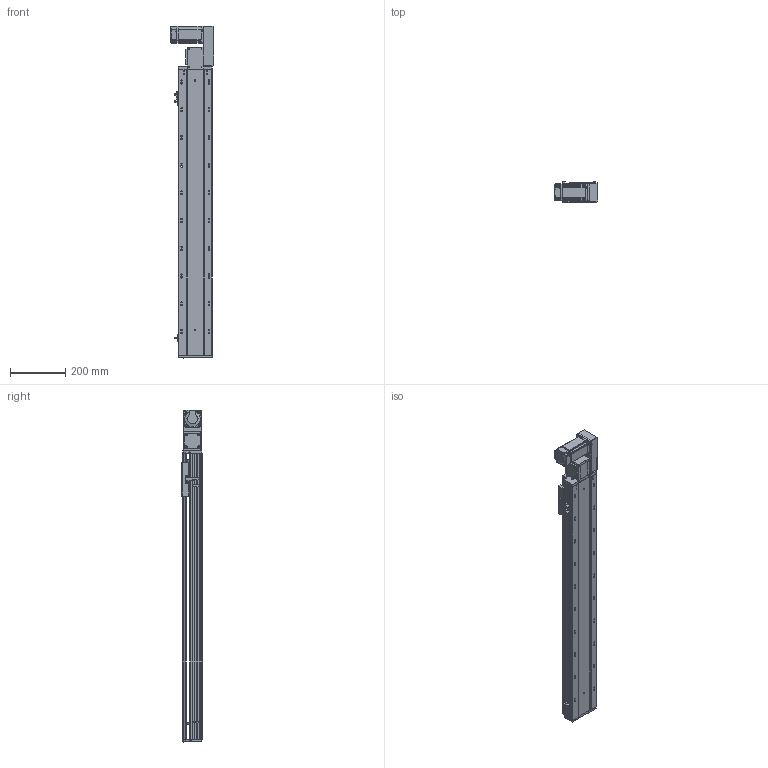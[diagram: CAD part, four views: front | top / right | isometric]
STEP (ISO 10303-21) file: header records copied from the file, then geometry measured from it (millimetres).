
FILE_DESCRIPTION (( 'STEP AP203' ), '1' );
FILE_NAME ('RY120-T-300-RK.SLDASM_800.step', '2021-03-01T03:53:16', ( '盈信电脑' ), ( '东莞市道滘镇水果街19号' ), 'SwSTEP 2.0', 'SolidWorks 2012', '' );
FILE_SCHEMA (( 'CONFIG_CONTROL_DESIGN' ));
Length unit declared in the file: millimetre
Products named in the file (17): RY120-T萇儂假蚾啣; 15; RY120-T翋肮祭謫裔啣; 滅袉蝶18-10; RY120-T翋肮祭盓傅釱; RY120外置感应片(140共用）; RY120-T肮祭湍揤踡輸1; RY120-T肮祭湍揤踡輸2; RY120-T-300-RK倰第奻裔啣_800; RY120肮祭湍臏賑輸; 覜茼ん672; RY120綴裔啣; RY120-T-300-RK倰第菁釱_800; RY120-T-300-RK.SLDASM_800; RY120-T萇儂欶; RY120-T主同步轮轴承压盖; RY120-T蹟翐M4
Assembly tree (22 placements, depth 2):
  RY120-T-300-RK.SLDASM_800
    RY120-T-300-RK倰第菁釱_800
    RY120-T-300-RK倰第奻裔啣_800
    RY120肮祭湍臏賑輸
    RY120綴裔啣
    覜茼ん672  x3
    RY120外置感应片(140共用）
    RY120-T肮祭湍揤踡輸1
    RY120-T肮祭湍揤踡輸2
    RY120-T翋肮祭盓傅釱
    滅袉蝶18-10  x2
    RY120-T翋肮祭謫裔啣
    15
    RY120-T萇儂假蚾啣
    RY120-T蹟翐M4  x4
    RY120-T萇儂欶
    RY120-T主同步轮轴承压盖
Bounding box: 155.5 x 73 x 1197.5 mm (x, y, z)
Volume: 3173127.3 mm3; surface area: 1178623 mm2
Topology: 23 solids, 23 shells, 2914 faces, 7996 edges, 5144 vertices
Faces by surface type: plane 1442, cylinder 1140, cone 243, bspline 89
Entity records: 94247 total; most frequent: CARTESIAN_POINT 24794, ORIENTED_EDGE 14440, DIRECTION 13478, EDGE_CURVE 7220, VERTEX_POINT 4731, AXIS2_PLACEMENT_3D 4527, VECTOR 4424, LINE 4424
